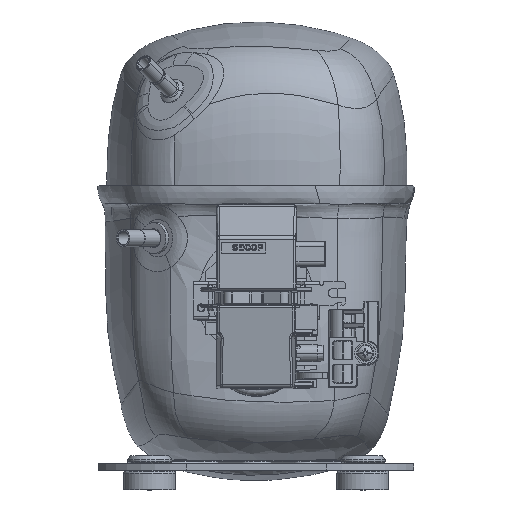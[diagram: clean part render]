
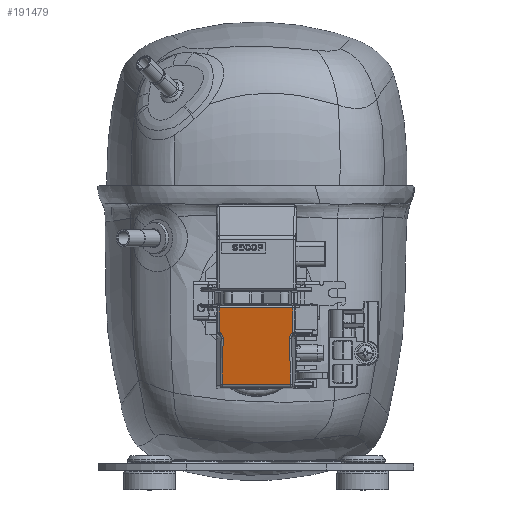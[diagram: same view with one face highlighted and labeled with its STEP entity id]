
A CAD part, top view. The second image highlights one B-rep face of the part: STEP entity #191479.
In plain terms, the highlighted planar face has unit normal (0, -0.174, 0.985) as drawn and (0, 0.985, -0.174) by its records, which use the part's own axes.
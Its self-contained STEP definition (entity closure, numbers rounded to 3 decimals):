
#157827=DIRECTION('',(-1.,0.,0.));
#157828=VECTOR('',#157827,34.88);
#157829=CARTESIAN_POINT('',(17.588,46.172,
-49.058));
#157830=LINE('',#157829,#157828);
#157831=DIRECTION('',(0.003,0.174,0.985));
#157832=VECTOR('',#157831,12.078);
#157833=CARTESIAN_POINT('',(-17.328,44.075,
-60.952));
#157834=LINE('',#157833,#157832);
#157835=CARTESIAN_POINT('',(-15.826,43.613,
-63.574));
#157836=CARTESIAN_POINT('',(-15.822,43.652,
-63.35));
#157837=CARTESIAN_POINT('',(-15.864,43.728,
-62.919));
#157838=CARTESIAN_POINT('',(-16.056,43.835,
-62.316));
#157839=CARTESIAN_POINT('',(-16.373,43.931,
-61.767));
#157840=CARTESIAN_POINT('',(-16.802,44.014,
-61.298));
#157841=CARTESIAN_POINT('',(-17.142,44.057,
-61.056));
#157842=CARTESIAN_POINT('',(-17.328,44.075,
-60.952));
#157844=DIRECTION('',(0.018,0.174,0.985));
#157845=VECTOR('',#157844,22.167);
#157846=CARTESIAN_POINT('',(-16.231,39.764,
-85.4));
#157847=LINE('',#157846,#157845);
#157848=DIRECTION('',(-1.,0.,0.));
#157849=VECTOR('',#157848,32.462);
#157850=CARTESIAN_POINT('',(16.231,39.764,
-85.4));
#157851=LINE('',#157850,#157849);
#157852=DIRECTION('',(-0.018,0.174,0.985));
#157853=VECTOR('',#157852,22.167);
#157854=CARTESIAN_POINT('',(16.231,39.764,
-85.4));
#157855=LINE('',#157854,#157853);
#157856=CARTESIAN_POINT('',(15.826,43.613,
-63.574));
#157857=CARTESIAN_POINT('',(15.822,43.656,
-63.328));
#157858=CARTESIAN_POINT('',(15.873,43.74,
-62.855));
#157859=CARTESIAN_POINT('',(16.105,43.855,
-62.201));
#157860=CARTESIAN_POINT('',(16.484,43.958,
-61.617));
#157861=CARTESIAN_POINT('',(16.991,44.042,
-61.138));
#157862=CARTESIAN_POINT('',(17.389,44.083,
-60.908));
#157863=CARTESIAN_POINT('',(17.606,44.099,
-60.815));
#157865=DIRECTION('',(-0.002,0.174,0.985));
#157866=VECTOR('',#157865,11.939);
#157867=CARTESIAN_POINT('',(17.606,44.099,
-60.815));
#157868=LINE('',#157867,#157866);
#159241=CARTESIAN_POINT('',(-16.231,39.764,
-85.4));
#159251=CARTESIAN_POINT('',(16.231,39.764,
-85.4));
#175874=VERTEX_POINT('',#159241);
#175877=CARTESIAN_POINT('',(-15.826,43.613,
-63.574));
#175878=VERTEX_POINT('',#175877);
#175881=VERTEX_POINT('',#157842);
#175912=VERTEX_POINT('',#159251);
#175915=CARTESIAN_POINT('',(15.826,43.613,
-63.574));
#175916=VERTEX_POINT('',#175915);
#175917=VERTEX_POINT('',#157863);
#175944=CARTESIAN_POINT('',(-17.291,46.172,
-49.058));
#175945=VERTEX_POINT('',#175944);
#175950=CARTESIAN_POINT('',(17.588,46.172,
-49.058));
#175951=VERTEX_POINT('',#175950);
#191457=CARTESIAN_POINT('',(-19.,39.412,-87.4));
#191458=DIRECTION('',(0.,0.985,-0.174));
#191459=DIRECTION('',(0.,0.174,0.985));
#191460=AXIS2_PLACEMENT_3D('',#191457,#191458,#191459);
#191461=PLANE('',#191460);
#191463=ORIENTED_EDGE('',*,*,#191462,.T.);
#191465=ORIENTED_EDGE('',*,*,#191464,.F.);
#191467=ORIENTED_EDGE('',*,*,#191466,.F.);
#191469=ORIENTED_EDGE('',*,*,#191468,.F.);
#191471=ORIENTED_EDGE('',*,*,#191470,.F.);
#191473=ORIENTED_EDGE('',*,*,#191472,.T.);
#191475=ORIENTED_EDGE('',*,*,#191474,.T.);
#191476=ORIENTED_EDGE('',*,*,#191449,.T.);
#191477=EDGE_LOOP('',(#191463,#191465,#191467,#191469,#191471,#191473,#191475,
#191476));
#191478=FACE_OUTER_BOUND('',#191477,.F.);
#191479=ADVANCED_FACE('',(#191478),#191461,.T.);
#157843=B_SPLINE_CURVE_WITH_KNOTS('',3,(#157835,#157836,#157837,#157838,#157839,
#157840,#157841,#157842),.UNSPECIFIED.,.F.,.F.,(4,1,1,1,1,4),(0.,0.2,0.4,
0.6,0.8,1.),.UNSPECIFIED.);
#157864=B_SPLINE_CURVE_WITH_KNOTS('',3,(#157856,#157857,#157858,#157859,#157860,
#157861,#157862,#157863),.UNSPECIFIED.,.F.,.F.,(4,1,1,1,1,4),(0.,0.2,0.4,
0.6,0.8,1.),.UNSPECIFIED.);
#191449=EDGE_CURVE('',#175917,#175951,#157868,.T.);
#191462=EDGE_CURVE('',#175951,#175945,#157830,.T.);
#191464=EDGE_CURVE('',#175881,#175945,#157834,.T.);
#191466=EDGE_CURVE('',#175878,#175881,#157843,.T.);
#191468=EDGE_CURVE('',#175874,#175878,#157847,.T.);
#191470=EDGE_CURVE('',#175912,#175874,#157851,.T.);
#191472=EDGE_CURVE('',#175912,#175916,#157855,.T.);
#191474=EDGE_CURVE('',#175916,#175917,#157864,.T.);
